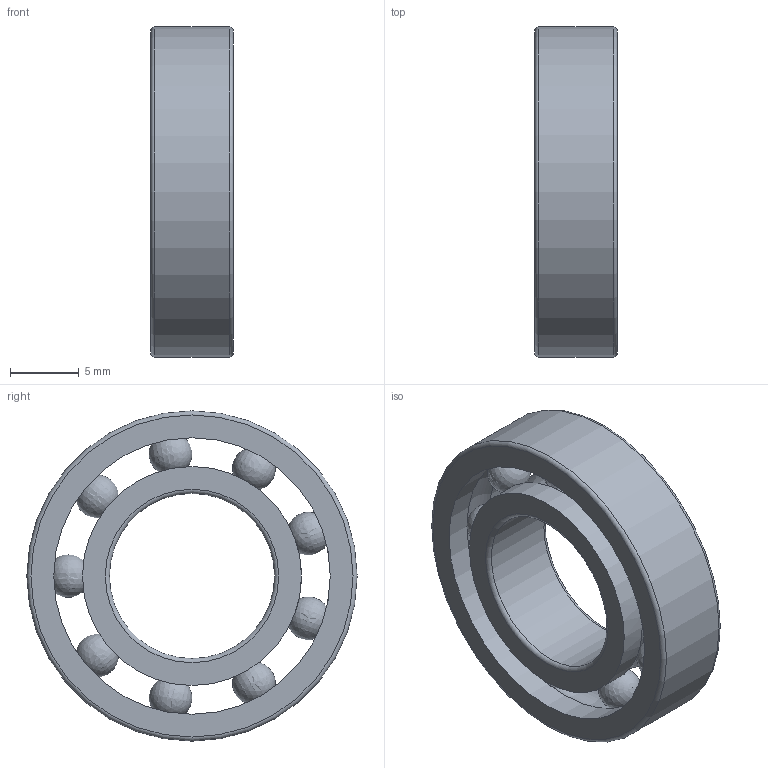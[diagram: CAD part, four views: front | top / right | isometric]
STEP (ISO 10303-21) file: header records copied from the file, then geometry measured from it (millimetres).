
FILE_DESCRIPTION(/* description */ ('깊은 그루브 볼 베어링'),/* implementation_level */ '2;1');
FILE_NAME(/* name */ '',/* time_stamp */ '2024-05-29T16:31:28+09:00',/* author */ ('jhkim'),/* organization */ (''),/* preprocessor_version */ 'ST-DEVELOPER v20',/* originating_system */ 'Autodesk Inventor 2025',/* authorisation */ '');
FILE_SCHEMA (('AUTOMOTIVE_DESIGN { 1 0 10303 214 3 1 1 }'));
Length unit declared in the file: millimetre
Products named in the file (1): 깊은 홈 볼 베어링 
6901
Bounding box: 6 x 24 x 24 mm (x, y, z)
Volume: 1372.4 mm3; surface area: 2079.1 mm2
Topology: 11 solids, 11 shells, 41 faces, 111 edges, 74 vertices
Faces by surface type: torus 22, sphere 9, cylinder 6, plane 4
Full cylindrical faces by diameter (mm): 12 x1, 15.912 x2, 20.088 x2, 24 x1
Entity records: 1555 total; most frequent: DIRECTION 300, CARTESIAN_POINT 263, ORIENTED_EDGE 222, AXIS2_PLACEMENT_3D 147, EDGE_CURVE 111, VERTEX_POINT 110, CIRCLE 105, EDGE_LOOP 63
